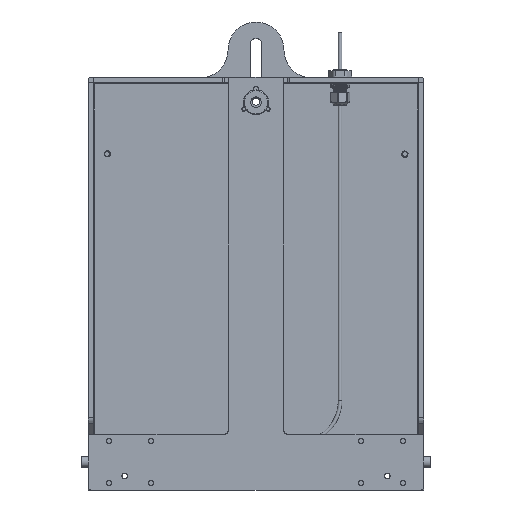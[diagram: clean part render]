
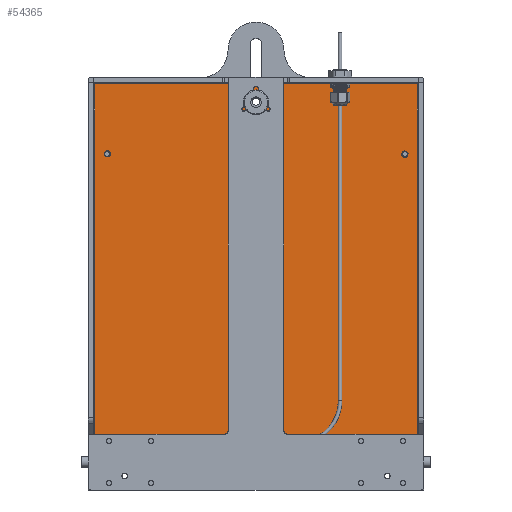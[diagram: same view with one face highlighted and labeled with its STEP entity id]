
A CAD part, front view. The second image highlights one B-rep face of the part: STEP entity #54365.
In plain terms, the highlighted planar face has unit normal (0, -1, 0).
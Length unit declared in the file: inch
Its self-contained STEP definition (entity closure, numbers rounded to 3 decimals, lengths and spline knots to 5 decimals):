
#188 = CARTESIAN_POINT ( 'NONE',  ( -5.3125, -0.188, 4.11825 ) ) ;
#232 = ORIENTED_EDGE ( 'NONE', *, *, #13445, .F. ) ;
#418 = DIRECTION ( 'NONE',  ( 0., 0., -1. ) ) ;
#1291 = CARTESIAN_POINT ( 'NONE',  ( 0., -0.188, 5.89975 ) ) ;
#2580 = DIRECTION ( 'NONE',  ( 0., 0., -1. ) ) ;
#2729 = DIRECTION ( 'NONE',  ( -1., 0., 0. ) ) ;
#2733 = AXIS2_PLACEMENT_3D ( 'NONE', #50304, #50587, #2580 ) ;
#3727 = CARTESIAN_POINT ( 'NONE',  ( -5.7, -0.188, -6.96875 ) ) ;
#3883 = VERTEX_POINT ( 'NONE', #22721 ) ;
#3933 = EDGE_LOOP ( 'NONE', ( #38478, #5981, #16360, #38742, #14576, #6045, #23104, #232 ) ) ;
#4629 = VECTOR ( 'NONE', #44242, 39.37008 ) ;
#4985 = DIRECTION ( 'NONE',  ( 0., 0., -1. ) ) ;
#5320 = VERTEX_POINT ( 'NONE', #30594 ) ;
#5981 = ORIENTED_EDGE ( 'NONE', *, *, #27109, .F. ) ;
#6045 = ORIENTED_EDGE ( 'NONE', *, *, #37284, .F. ) ;
#6112 = AXIS2_PLACEMENT_3D ( 'NONE', #10369, #19244, #4985 ) ;
#6158 = VERTEX_POINT ( 'NONE', #1291 ) ;
#7705 = LINE ( 'NONE', #55741, #26339 ) ;
#9121 = DIRECTION ( 'NONE',  ( 1., 0., 0. ) ) ;
#9596 = VECTOR ( 'NONE', #37319, 39.37008 ) ;
#9724 = EDGE_LOOP ( 'NONE', ( #26358 ) ) ;
#10369 = CARTESIAN_POINT ( 'NONE',  ( 0., -0.188, 0. ) ) ;
#11339 = EDGE_LOOP ( 'NONE', ( #36269 ) ) ;
#11760 = VECTOR ( 'NONE', #9121, 39.37008 ) ;
#12668 = FACE_BOUND ( 'NONE', #31467, .T. ) ;
#13105 = CARTESIAN_POINT ( 'NONE',  ( -5.752, -0.188, 6.72075 ) ) ;
#13445 = EDGE_CURVE ( 'NONE', #24252, #29927, #45587, .T. ) ;
#14576 = ORIENTED_EDGE ( 'NONE', *, *, #53725, .F. ) ;
#15310 = LINE ( 'NONE', #50205, #9596 ) ;
#15548 = LINE ( 'NONE', #28978, #22850 ) ;
#16360 = ORIENTED_EDGE ( 'NONE', *, *, #23489, .F. ) ;
#17535 = VERTEX_POINT ( 'NONE', #25872 ) ;
#17772 = DIRECTION ( 'NONE',  ( 0., -1., 0. ) ) ;
#18674 = PLANE ( 'NONE',  #6112 ) ;
#19244 = DIRECTION ( 'NONE',  ( 0., -1., 0. ) ) ;
#21272 = VERTEX_POINT ( 'NONE', #3727 ) ;
#21584 = FACE_BOUND ( 'NONE', #11339, .T. ) ;
#21821 = AXIS2_PLACEMENT_3D ( 'NONE', #30661, #17772, #418 ) ;
#21953 = CIRCLE ( 'NONE', #24695, 0.1005 ) ;
#22721 = CARTESIAN_POINT ( 'NONE',  ( 5.752, -0.188, -6.11875 ) ) ;
#22850 = VECTOR ( 'NONE', #2729, 39.37008 ) ;
#23104 = ORIENTED_EDGE ( 'NONE', *, *, #50421, .F. ) ;
#23413 = DIRECTION ( 'NONE',  ( -1., 0., 0. ) ) ;
#23489 = EDGE_CURVE ( 'NONE', #43045, #52285, #39398, .T. ) ;
#24177 = CARTESIAN_POINT ( 'NONE',  ( 5.7, -0.188, -6.96875 ) ) ;
#24252 = VERTEX_POINT ( 'NONE', #29119 ) ;
#24419 = EDGE_CURVE ( 'NONE', #5320, #43045, #7705, .T. ) ;
#24452 = LINE ( 'NONE', #26832, #4629 ) ;
#24695 = AXIS2_PLACEMENT_3D ( 'NONE', #29728, #43148, #25752 ) ;
#25192 = EDGE_CURVE ( 'NONE', #39262, #39262, #40971, .T. ) ;
#25752 = DIRECTION ( 'NONE',  ( 0., 0., -1. ) ) ;
#25872 = CARTESIAN_POINT ( 'NONE',  ( 5.3125, -0.188, 4.11825 ) ) ;
#26339 = VECTOR ( 'NONE', #34782, 39.37008 ) ;
#26358 = ORIENTED_EDGE ( 'NONE', *, *, #25192, .F. ) ;
#26375 = EDGE_CURVE ( 'NONE', #17535, #17535, #21953, .T. ) ;
#26832 = CARTESIAN_POINT ( 'NONE',  ( -5.7, -0.188, 0. ) ) ;
#27109 = EDGE_CURVE ( 'NONE', #52285, #3883, #41379, .T. ) ;
#28053 = CARTESIAN_POINT ( 'NONE',  ( -5.7, -0.188, -6.11875 ) ) ;
#28854 = ORIENTED_EDGE ( 'NONE', *, *, #34724, .F. ) ;
#28978 = CARTESIAN_POINT ( 'NONE',  ( -6., -0.188, -6.96875 ) ) ;
#29119 = CARTESIAN_POINT ( 'NONE',  ( 5.7, -0.188, -6.11875 ) ) ;
#29728 = CARTESIAN_POINT ( 'NONE',  ( 5.3125, -0.188, 4.21875 ) ) ;
#29927 = VERTEX_POINT ( 'NONE', #24177 ) ;
#30426 = FACE_BOUND ( 'NONE', #9724, .T. ) ;
#30594 = CARTESIAN_POINT ( 'NONE',  ( -5.752, -0.188, -6.11875 ) ) ;
#30661 = CARTESIAN_POINT ( 'NONE',  ( -5.3125, -0.188, 4.21875 ) ) ;
#31467 = EDGE_LOOP ( 'NONE', ( #28854 ) ) ;
#31808 = FACE_OUTER_BOUND ( 'NONE', #3933, .T. ) ;
#32808 = DIRECTION ( 'NONE',  ( 0., 0., -1. ) ) ;
#34724 = EDGE_CURVE ( 'NONE', #6158, #6158, #44676, .T. ) ;
#34782 = DIRECTION ( 'NONE',  ( 0., 0., 1. ) ) ;
#36269 = ORIENTED_EDGE ( 'NONE', *, *, #26375, .F. ) ;
#36417 = CARTESIAN_POINT ( 'NONE',  ( 5.7, -0.188, 0. ) ) ;
#37284 = EDGE_CURVE ( 'NONE', #21272, #39184, #24452, .T. ) ;
#37319 = DIRECTION ( 'NONE',  ( -1., 0., 0. ) ) ;
#38478 = ORIENTED_EDGE ( 'NONE', *, *, #38482, .F. ) ;
#38482 = EDGE_CURVE ( 'NONE', #3883, #24252, #49983, .T. ) ;
#38742 = ORIENTED_EDGE ( 'NONE', *, *, #24419, .F. ) ;
#39184 = VERTEX_POINT ( 'NONE', #28053 ) ;
#39262 = VERTEX_POINT ( 'NONE', #188 ) ;
#39398 = LINE ( 'NONE', #48298, #11760 ) ;
#39607 = CARTESIAN_POINT ( 'NONE',  ( 5.752, -0.188, 6.72075 ) ) ;
#40971 = CIRCLE ( 'NONE', #21821, 0.1005 ) ;
#41216 = VECTOR ( 'NONE', #55020, 39.37008 ) ;
#41379 = LINE ( 'NONE', #41963, #52077 ) ;
#41963 = CARTESIAN_POINT ( 'NONE',  ( 5.752, -0.188, 6.77368 ) ) ;
#43045 = VERTEX_POINT ( 'NONE', #13105 ) ;
#43078 = VECTOR ( 'NONE', #23413, 39.37008 ) ;
#43148 = DIRECTION ( 'NONE',  ( 0., -1., 0. ) ) ;
#44242 = DIRECTION ( 'NONE',  ( 0., 0., 1. ) ) ;
#44676 = CIRCLE ( 'NONE', #2733, 0.166 ) ;
#45587 = LINE ( 'NONE', #36417, #41216 ) ;
#48298 = CARTESIAN_POINT ( 'NONE',  ( -5.80493, -0.188, 6.72075 ) ) ;
#49983 = LINE ( 'NONE', #54292, #43078 ) ;
#50205 = CARTESIAN_POINT ( 'NONE',  ( 0., -0.188, -6.11875 ) ) ;
#50304 = CARTESIAN_POINT ( 'NONE',  ( 0., -0.188, 6.06575 ) ) ;
#50421 = EDGE_CURVE ( 'NONE', #29927, #21272, #15548, .T. ) ;
#50587 = DIRECTION ( 'NONE',  ( 0., -1., 0. ) ) ;
#52077 = VECTOR ( 'NONE', #32808, 39.37008 ) ;
#52285 = VERTEX_POINT ( 'NONE', #39607 ) ;
#53725 = EDGE_CURVE ( 'NONE', #39184, #5320, #15310, .T. ) ;
#54292 = CARTESIAN_POINT ( 'NONE',  ( 0., -0.188, -6.11875 ) ) ;
#54365 = ADVANCED_FACE ( 'NONE', ( #12668, #30426, #21584, #31808 ), #18674, .T. ) ;
#55020 = DIRECTION ( 'NONE',  ( 0., 0., -1. ) ) ;
#55741 = CARTESIAN_POINT ( 'NONE',  ( -5.752, -0.188, -6.96875 ) ) ;
